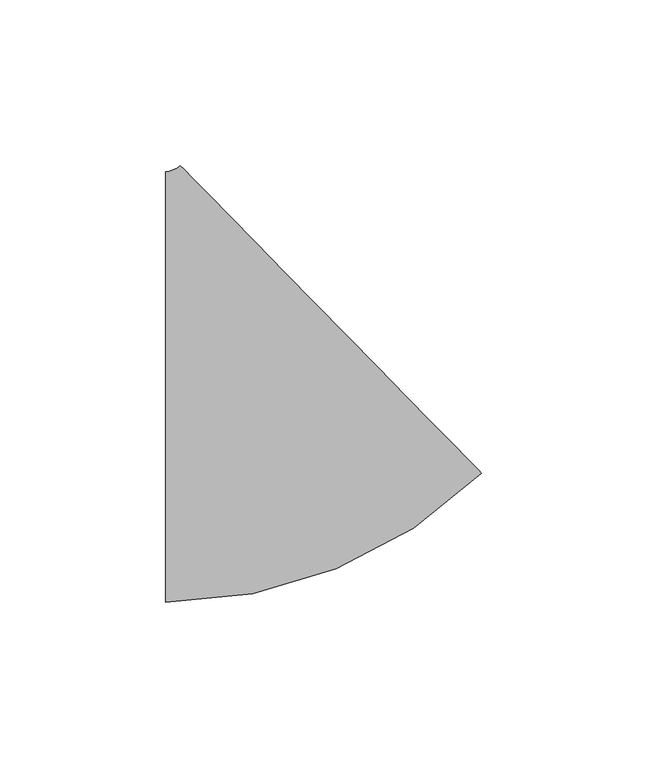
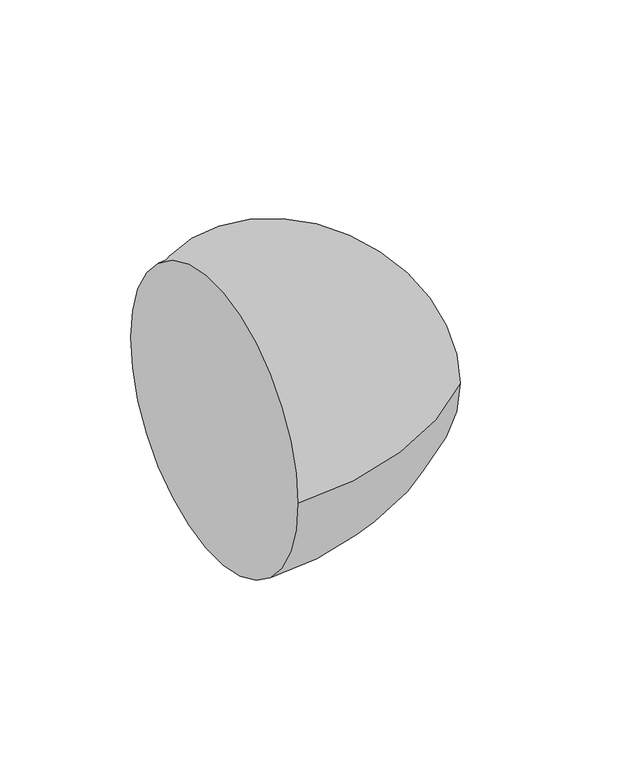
"""IFC4 building model written with IfcOpenShell, lengths in millimetres: pipe fitting geometry, M_Codo - Genérico : Estándar."""

from ifc_helpers import new_model, si_unit, point, frame, origin, place, context, project, spatial, circle_curve, ellipse_curve, trimmed, source, transform, mapped, element, save
from ifc_brep_helpers import plane_surface, revolved_surface, advanced_brep


def pipe_fitting_5f63dbb8(model_context):
    return source(origin(), model_context, "Body", "AdvancedBrep", [
        advanced_brep(
        [(-29.1727855, -65.0875, 0.0), (-29.1727855, 65.0875, 0.0), (66.394812, -26.060756, 0.0), (-24.7277809, 66.9026974, 0.0)],
        [
            (0, 1, circle_curve(frame((-29.1727855, 0.0, 0.0), z_axis=(-1.0, 0.0, 0.0), x_axis=(0.0, 1.0, 0.0)), 65.0875)),
            (1, 0, circle_curve(frame((-29.1727855, 0.0, 0.0), z_axis=(-1.0, 0.0, 0.0), x_axis=(0.0, 1.0, 0.0)), 65.0875)),
            (2, 3, circle_curve(frame((20.8335155, 20.4209707, 0.0), z_axis=(0.714142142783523, 0.7000007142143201, 0.0), x_axis=(-0.7000007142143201, 0.714142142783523, 0.0)), 65.0875)),
            (3, 2, circle_curve(frame((20.8335155, 20.4209707, 0.0), z_axis=(0.714142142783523, 0.7000007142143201, 0.0), x_axis=(-0.7000007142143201, 0.714142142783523, 0.0)), 65.0875)),
            (3, 1, circle_curve(frame((-29.1727855, 71.4375, 0.0), z_axis=(0.0, 0.0, -1.0), x_axis=(0.0, -1.0, 0.0)), 6.35)),
            (0, 2, circle_curve(frame((-29.1727855, 71.4375, 0.0), z_axis=(0.0, 0.0, 1.0), x_axis=(0.0, -1.0, 0.0)), 136.525)),
        ],
        [
            plane_surface(frame((-29.1727855, 0.0, 0.0), z_axis=(-1.0, 0.0, 0.0), x_axis=(0.0, 0.0, 1.0))),
            plane_surface(frame((20.8335155, 20.4209707, 0.0), z_axis=(0.7141421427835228, 0.7000007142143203, 0.0), x_axis=(0.0, 0.0, 1.0))),
            revolved_surface(trimmed(ellipse_curve(frame((-29.1727855, 0.0, 0.0), z_axis=(-1.0, 0.0, 0.0), x_axis=(0.0, 1.0, 0.0)), 65.0875, 65.0875), [point((-29.1727855, -65.0875, 0.0))], [point((-29.1727855, 65.0875, 0.0))], True, "CARTESIAN"), (-29.1727855, 71.4375, 0.0), (0.0, 0.0, 1.0)),
            revolved_surface(trimmed(ellipse_curve(frame((-29.1727855, 0.0, 0.0), z_axis=(-1.0, 0.0, 0.0), x_axis=(0.0, 1.0, 0.0)), 65.0875, 65.0875), [point((-29.1727855, 65.0875, 0.0))], [point((-29.1727855, -65.0875, 0.0))], True, "CARTESIAN"), (-29.1727855, 71.4375, 0.0), (0.0, 0.0, 1.0)),
        ],
        [
            (0, [[1, 2]]),
            (1, [[3, 4]]),
            (2, [[5, -1, 6, -4]]),
            (3, [[-6, -2, -5, -3]]),
        ],
    ),
    ])


if __name__ == "__main__":
    model = new_model("IFC4")
    model_context = context("Model", 3, world=origin())
    ifc_project = project(units=[si_unit("LENGTHUNIT", "METRE", prefix="MILLI")], contexts=[model_context])
    site = spatial("IfcSite", under=ifc_project)
    building = spatial("IfcBuilding", under=site)
    placement = place(None, origin())
    pipe_fitting_shape = pipe_fitting_5f63dbb8(model_context)
    element("IfcPipeFitting", 1, ObjectType="M_Codo - Genérico : Estándar", at=placement, inside=building, context=model_context, shape_type="MappedRepresentation", body=[
        mapped(pipe_fitting_shape, transform((0.0, 0.0, 0.0), x_axis=(1.0, 0.0, 0.0), y_axis=(0.0, 1.0, 0.0), z_axis=(0.0, 0.0, 1.0))),
    ])
    save(model, "model.ifc")
